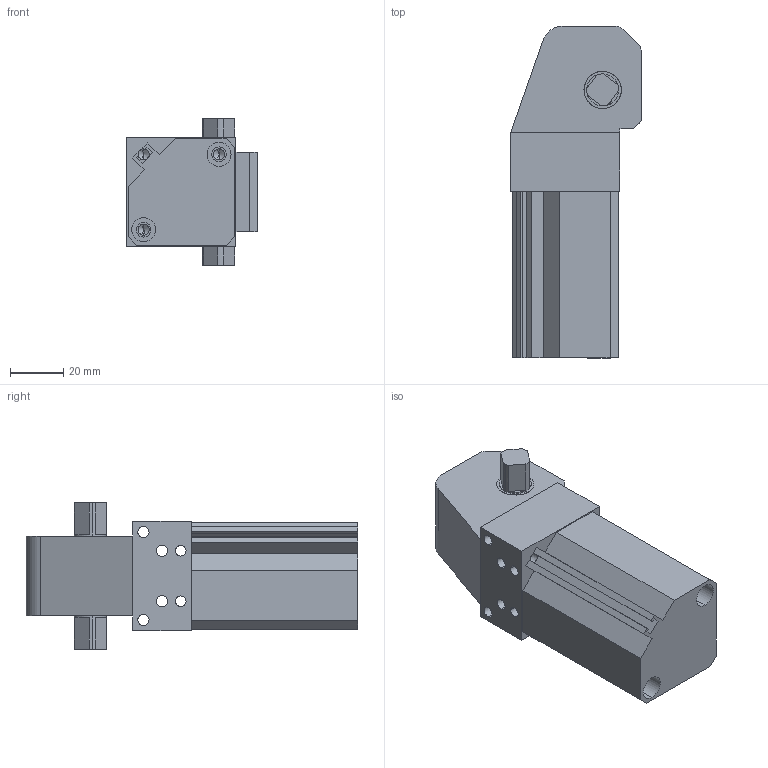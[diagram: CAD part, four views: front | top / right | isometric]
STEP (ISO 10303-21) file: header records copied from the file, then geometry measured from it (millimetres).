
FILE_DESCRIPTION (( 'STEP AP203' ), '1' );
FILE_NAME ('BC-25-S-98.STEP', '2017-02-15T11:03:34', ( '' ), ( '' ), 'SwSTEP 2.0', 'SolidWorks 2012', '' );
FILE_SCHEMA (( 'CONFIG_CONTROL_DESIGN' ));
Length unit declared in the file: millimetre
Products named in the file (4): BC-25-S-98; S-25-30; BC25-2; BC25S-1
Assembly tree (3 placements, depth 2):
  BC-25-S-98
    BC25S-1
    BC25-2
    S-25-30
Bounding box: 49 x 124.5 x 55 mm (x, y, z)
Volume: 165441.9 mm3; surface area: 37572.5 mm2
Topology: 3 solids, 3 shells, 137 faces, 340 edges, 218 vertices
Faces by surface type: plane 68, cylinder 57, cone 12
Entity records: 4490 total; most frequent: DIRECTION 752, CARTESIAN_POINT 693, ORIENTED_EDGE 664, EDGE_CURVE 332, AXIS2_PLACEMENT_3D 277, VERTEX_POINT 218, VECTOR 198, LINE 198
